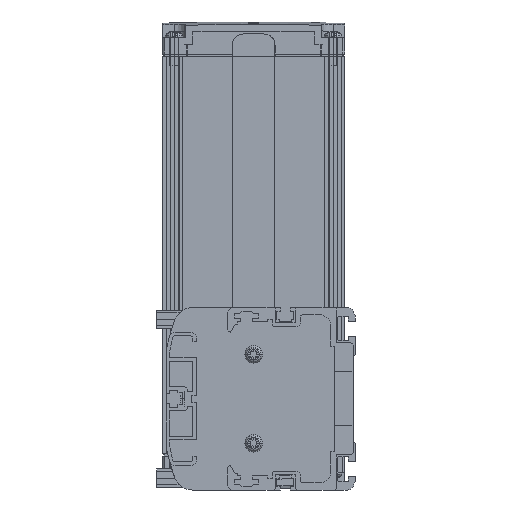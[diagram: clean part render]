
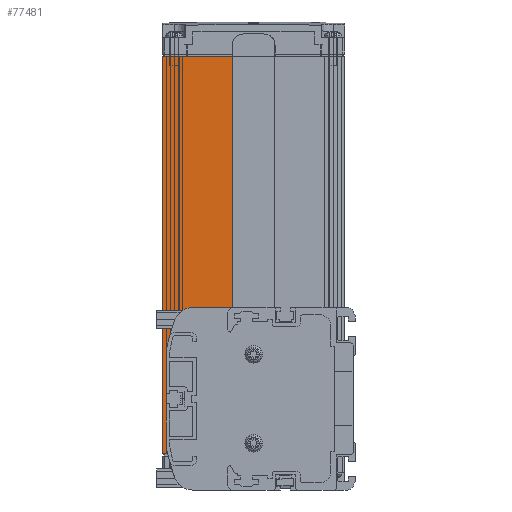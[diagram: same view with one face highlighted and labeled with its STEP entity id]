
A CAD part, left-side view. The second image highlights one B-rep face of the part: STEP entity #77481.
In plain terms, the highlighted planar face has unit normal (-1, 0, 0).
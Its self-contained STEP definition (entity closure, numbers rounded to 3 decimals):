
#76063=DIRECTION('',(0.,-1.,0.));
#76064=VECTOR('',#76063,17.9);
#76065=CARTESIAN_POINT('',(3.,70.5,27.5));
#76066=LINE('',#76065,#76064);
#76071=DIRECTION('',(0.,0.,1.));
#76072=VECTOR('',#76071,51.);
#76073=CARTESIAN_POINT('',(3.,70.5,-23.5));
#76074=LINE('',#76073,#76072);
#76079=DIRECTION('',(0.,-1.,0.));
#76080=VECTOR('',#76079,12.);
#76081=CARTESIAN_POINT('',(3.,82.5,-23.5));
#76082=LINE('',#76081,#76080);
#76083=DIRECTION('',(0.,0.,-1.));
#76084=VECTOR('',#76083,170.);
#76085=CARTESIAN_POINT('',(3.,82.5,146.5));
#76086=LINE('',#76085,#76084);
#76087=DIRECTION('',(0.,1.,0.));
#76088=VECTOR('',#76087,29.9);
#76089=CARTESIAN_POINT('',(3.,52.6,146.5));
#76090=LINE('',#76089,#76088);
#76125=DIRECTION('',(0.,0.,1.));
#76126=VECTOR('',#76125,119.);
#76127=CARTESIAN_POINT('',(3.,52.6,27.5));
#76128=LINE('',#76127,#76126);
#76282=CARTESIAN_POINT('',(3.,70.5,-23.5));
#76283=VERTEX_POINT('',#76282);
#76284=CARTESIAN_POINT('',(3.,82.5,-23.5));
#76285=VERTEX_POINT('',#76284);
#76420=CARTESIAN_POINT('',(3.,52.6,146.5));
#76421=VERTEX_POINT('',#76420);
#76422=CARTESIAN_POINT('',(3.,82.5,146.5));
#76423=VERTEX_POINT('',#76422);
#76480=CARTESIAN_POINT('',(3.,70.5,27.5));
#76481=CARTESIAN_POINT('',(3.,52.6,27.5));
#76482=VERTEX_POINT('',#76480);
#76483=VERTEX_POINT('',#76481);
#77466=CARTESIAN_POINT('',(3.,67.55,61.5));
#77467=DIRECTION('',(1.,0.,0.));
#77468=DIRECTION('',(0.,-1.,0.));
#77469=AXIS2_PLACEMENT_3D('',#77466,#77467,#77468);
#77470=PLANE('',#77469);
#77471=ORIENTED_EDGE('',*,*,#77442,.F.);
#77472=ORIENTED_EDGE('',*,*,#77459,.F.);
#77473=ORIENTED_EDGE('',*,*,#76587,.F.);
#77475=ORIENTED_EDGE('',*,*,#77474,.F.);
#77476=ORIENTED_EDGE('',*,*,#76998,.F.);
#77478=ORIENTED_EDGE('',*,*,#77477,.F.);
#77479=EDGE_LOOP('',(#77471,#77472,#77473,#77475,#77476,#77478));
#77480=FACE_OUTER_BOUND('',#77479,.F.);
#77481=ADVANCED_FACE('',(#77480),#77470,.F.);
#76587=EDGE_CURVE('',#76285,#76283,#76082,.T.);
#76998=EDGE_CURVE('',#76421,#76423,#76090,.T.);
#77442=EDGE_CURVE('',#76482,#76483,#76066,.T.);
#77459=EDGE_CURVE('',#76283,#76482,#76074,.T.);
#77474=EDGE_CURVE('',#76423,#76285,#76086,.T.);
#77477=EDGE_CURVE('',#76483,#76421,#76128,.T.);
